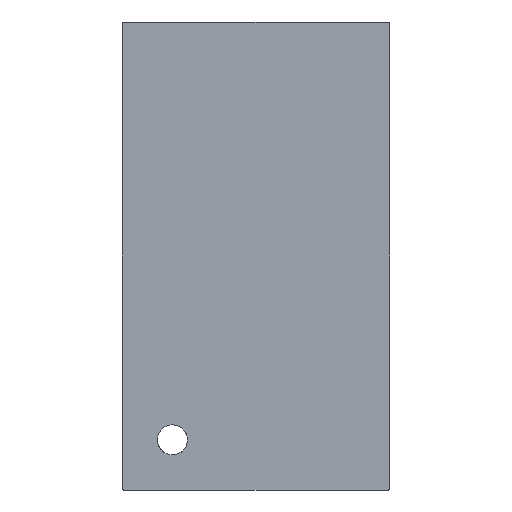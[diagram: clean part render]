
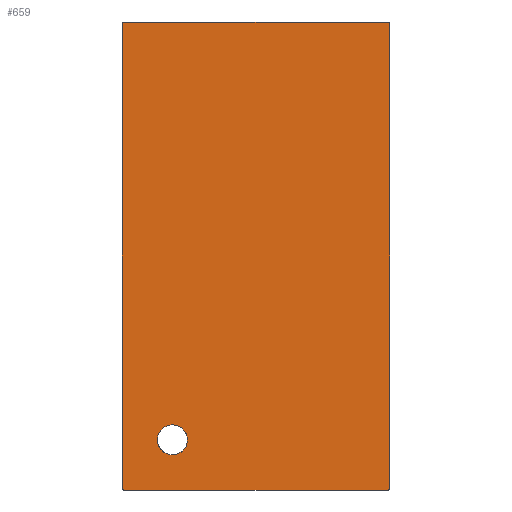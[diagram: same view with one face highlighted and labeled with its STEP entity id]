
A CAD part, front view. The second image highlights one B-rep face of the part: STEP entity #659.
In plain terms, the highlighted planar face has unit normal (0, -1, 0).
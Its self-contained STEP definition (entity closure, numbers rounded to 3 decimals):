
#57=FACE_BOUND('',#108,.T.);
#60=FACE_OUTER_BOUND('',#107,.T.);
#107=EDGE_LOOP('',(#450,#451,#452,#453,#454,#455,#456,#457));
#108=EDGE_LOOP('',(#458));
#157=LINE('',#1047,#203);
#158=LINE('',#1051,#204);
#159=LINE('',#1055,#205);
#160=LINE('',#1058,#206);
#203=VECTOR('',#817,10.);
#204=VECTOR('',#820,10.);
#205=VECTOR('',#823,10.);
#206=VECTOR('',#826,10.);
#249=CIRCLE('',#721,5.);
#250=CIRCLE('',#722,5.);
#251=CIRCLE('',#723,5.);
#252=CIRCLE('',#724,5.);
#253=CIRCLE('',#725,45.);
#296=VERTEX_POINT('',#1043);
#297=VERTEX_POINT('',#1044);
#298=VERTEX_POINT('',#1046);
#299=VERTEX_POINT('',#1048);
#300=VERTEX_POINT('',#1050);
#301=VERTEX_POINT('',#1052);
#302=VERTEX_POINT('',#1054);
#303=VERTEX_POINT('',#1056);
#304=VERTEX_POINT('',#1059);
#351=EDGE_CURVE('',#296,#297,#249,.T.);
#352=EDGE_CURVE('',#298,#296,#157,.T.);
#353=EDGE_CURVE('',#299,#298,#250,.T.);
#354=EDGE_CURVE('',#300,#299,#158,.T.);
#355=EDGE_CURVE('',#301,#300,#251,.T.);
#356=EDGE_CURVE('',#302,#301,#159,.T.);
#357=EDGE_CURVE('',#303,#302,#252,.T.);
#358=EDGE_CURVE('',#297,#303,#160,.T.);
#359=EDGE_CURVE('',#304,#304,#253,.T.);
#450=ORIENTED_EDGE('',*,*,#351,.F.);
#451=ORIENTED_EDGE('',*,*,#352,.F.);
#452=ORIENTED_EDGE('',*,*,#353,.F.);
#453=ORIENTED_EDGE('',*,*,#354,.F.);
#454=ORIENTED_EDGE('',*,*,#355,.F.);
#455=ORIENTED_EDGE('',*,*,#356,.F.);
#456=ORIENTED_EDGE('',*,*,#357,.F.);
#457=ORIENTED_EDGE('',*,*,#358,.F.);
#458=ORIENTED_EDGE('',*,*,#359,.F.);
#648=PLANE('',#720);
#659=ADVANCED_FACE('',(#60,#57),#648,.F.);
#720=AXIS2_PLACEMENT_3D('',#1042,#813,#814);
#721=AXIS2_PLACEMENT_3D('',#1045,#815,#816);
#722=AXIS2_PLACEMENT_3D('',#1049,#818,#819);
#723=AXIS2_PLACEMENT_3D('',#1053,#821,#822);
#724=AXIS2_PLACEMENT_3D('',#1057,#824,#825);
#725=AXIS2_PLACEMENT_3D('',#1060,#827,#828);
#813=DIRECTION('center_axis',(0.,1.,0.));
#814=DIRECTION('ref_axis',(0.,0.,1.));
#815=DIRECTION('center_axis',(0.,1.,0.));
#816=DIRECTION('ref_axis',(-0.707,0.,0.707));
#817=DIRECTION('',(0.,0.,1.));
#818=DIRECTION('center_axis',(0.,1.,0.));
#819=DIRECTION('ref_axis',(-0.707,0.,-0.707));
#820=DIRECTION('',(-1.,0.,0.));
#821=DIRECTION('center_axis',(0.,1.,0.));
#822=DIRECTION('ref_axis',(0.707,0.,-0.707));
#823=DIRECTION('',(0.,0.,-1.));
#824=DIRECTION('center_axis',(0.,1.,0.));
#825=DIRECTION('ref_axis',(0.707,0.,0.707));
#826=DIRECTION('',(1.,0.,0.));
#827=DIRECTION('center_axis',(0.,-1.,0.));
#828=DIRECTION('ref_axis',(0.,0.,-1.));
#1042=CARTESIAN_POINT('Origin',(0.,75.,0.));
#1043=CARTESIAN_POINT('',(-400.,75.,695.));
#1044=CARTESIAN_POINT('',(-395.,75.,700.));
#1045=CARTESIAN_POINT('Origin',(-395.,75.,695.));
#1046=CARTESIAN_POINT('',(-400.,75.,-695.));
#1047=CARTESIAN_POINT('',(-400.,75.,-350.));
#1048=CARTESIAN_POINT('',(-395.,75.,-700.));
#1049=CARTESIAN_POINT('Origin',(-395.,75.,-695.));
#1050=CARTESIAN_POINT('',(395.,75.,-700.));
#1051=CARTESIAN_POINT('',(200.,75.,-700.));
#1052=CARTESIAN_POINT('',(400.,75.,-695.));
#1053=CARTESIAN_POINT('Origin',(395.,75.,-695.));
#1054=CARTESIAN_POINT('',(400.,75.,695.));
#1055=CARTESIAN_POINT('',(400.,75.,350.));
#1056=CARTESIAN_POINT('',(395.,75.,700.));
#1057=CARTESIAN_POINT('Origin',(395.,75.,695.));
#1058=CARTESIAN_POINT('',(-200.,75.,700.));
#1059=CARTESIAN_POINT('',(-250.,75.,-505.));
#1060=CARTESIAN_POINT('Origin',(-250.,75.,-550.));
